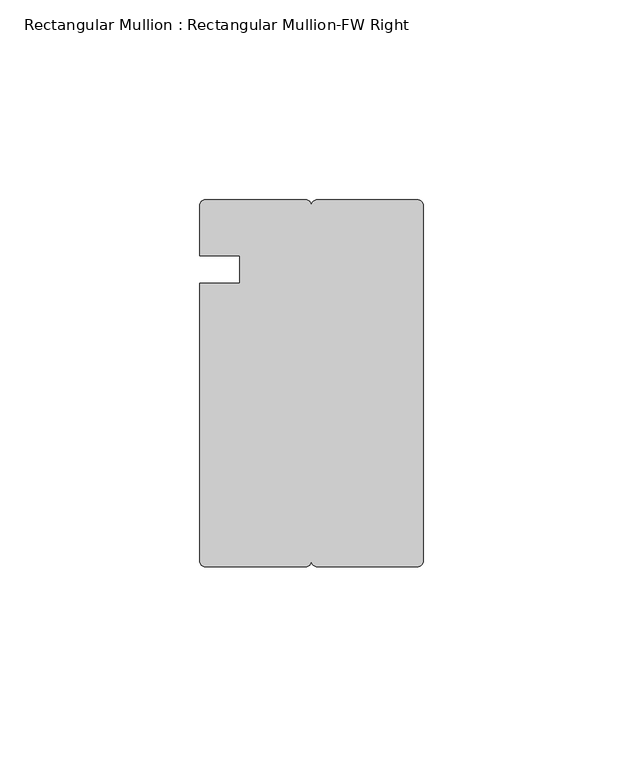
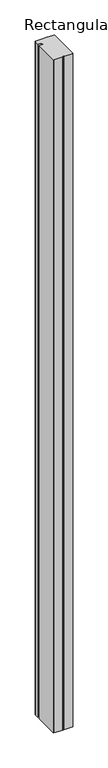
"""IFC4 building model written with IfcOpenShell, lengths in millimetres: member geometry, Rectangular Mullion : Rectangular Mullion-FW Right."""

import ifcopenshell
import ifcopenshell.guid

model = None  # the IFC model being written
_history = None  # IfcOwnerHistory: only IFC2X3 demands one
_inside = {}  # id of a spatial element -> (the spatial element, [elements in it])
_under = {}  # id of a project, library or spatial element -> (it, [spatial elements below it])
_declared = {}  # id of a project -> (the project, [libraries it declares])
_typed = {}  # id of a type object -> (the type object, [elements of that type])
_made_of = {}  # id of a material, layer set ... -> (it, [elements and type objects made of it])


def new_model(schema):
    """Start an empty IFC model of exactly this schema.

    Asked for "IFC4X3", IfcOpenShell would pick the latest addendum, in which some entities
    have other attributes; the version numbers below select the first issue.
    IFC2X3 requires an IfcOwnerHistory on every rooted entity: one is made here for all.
    """
    global model, _history
    if schema == "IFC4X3":
        model = ifcopenshell.file(schema_version=(4, 3, 0, 0))
    else:
        model = ifcopenshell.file(schema=schema)
    _inside.clear()
    _under.clear()
    _declared.clear()
    _typed.clear()
    _made_of.clear()
    _history = None
    if model.schema == "IFC2X3":
        org = make("IfcOrganization", Name="unknown")
        user = make(
            "IfcPersonAndOrganization",
            ThePerson=make("IfcPerson", FamilyName="unknown"),
            TheOrganization=org,
        )
        app = make(
            "IfcApplication",
            ApplicationDeveloper=org,
            Version="unknown",
            ApplicationFullName="unknown",
            ApplicationIdentifier="unknown",
        )
        _history = make(
            "IfcOwnerHistory",
            OwningUser=user,
            OwningApplication=app,
            ChangeAction="ADDED",
            CreationDate=0,
        )
    return model


def make(cls, **values):
    """One entity of the class cls with the attributes given. An attribute that is None is left unset."""
    return model.create_entity(
        cls, **{name: value for name, value in values.items() if value is not None}
    )


def rooted(cls, **values):
    """An entity with a GlobalId (a new one), such as an element, a storey or a relation."""
    return make(cls, GlobalId=ifcopenshell.guid.new(), OwnerHistory=_history, **values)


def si_unit(unit_type, name, prefix=None):
    """IfcSIUnit, for example si_unit("LENGTHUNIT", "METRE", prefix="MILLI")."""
    return make("IfcSIUnit", UnitType=unit_type, Prefix=prefix, Name=name)


def assignment(units):
    """IfcUnitAssignment: the units of a project."""
    return None if units is None else make("IfcUnitAssignment", Units=units)


def point(xyz):
    """IfcCartesianPoint."""
    return None if xyz is None else make("IfcCartesianPoint", Coordinates=xyz)


def direction(xyz):
    """IfcDirection."""
    return None if xyz is None else make("IfcDirection", DirectionRatios=xyz)


def frame(location, z_axis=None, x_axis=None):
    """IfcAxis2Placement3D, a coordinate frame: its origin and axes. An axis left out is left unset."""
    return make(
        "IfcAxis2Placement3D",
        Location=point(location),
        Axis=direction(z_axis),
        RefDirection=direction(x_axis),
    )


def origin():
    """The frame at (0, 0, 0) with its axes left unset."""
    return frame((0.0, 0.0, 0.0))


def place(relative_to, where):
    """IfcLocalPlacement: puts the frame where relative to a parent placement (None: the world)."""
    return make(
        "IfcLocalPlacement", PlacementRelTo=relative_to, RelativePlacement=where
    )


def context(
    kind, dimensions, precision=None, world=None, true_north=None, identifier=None
):
    """IfcGeometricRepresentationContext, for example the 3D "Model" context."""
    return make(
        "IfcGeometricRepresentationContext",
        ContextIdentifier=identifier,
        ContextType=kind,
        CoordinateSpaceDimension=dimensions,
        Precision=precision,
        WorldCoordinateSystem=world,
        TrueNorth=true_north,
    )


def project(units=None, contexts=None):
    """IfcProject with its units and contexts."""
    return rooted(
        "IfcProject",
        Name="project",
        RepresentationContexts=contexts,
        UnitsInContext=assignment(units),
    )


def spatial(cls, under=None, at=None, **own):
    """A site, building, storey or space (cls), placed at a placement, below another one or the project."""
    s = rooted(cls, ObjectPlacement=at, **own)
    if under is not None:
        _under.setdefault(under.id(), (under, []))[1].append(s)
    return s


def circle_curve(where, radius):
    """IfcCircle in the frame where."""
    return make("IfcCircle", Position=where, Radius=radius)


def shape(context_of_items, identifier, shape_type, items):
    """IfcShapeRepresentation: the items that make up one representation, for example the "Body"."""
    return make(
        "IfcShapeRepresentation",
        ContextOfItems=context_of_items,
        RepresentationIdentifier=identifier,
        RepresentationType=shape_type,
        Items=items,
    )


def source(mapping_origin, context_of_items, identifier, shape_type, items):
    """IfcRepresentationMap: a shape defined once, which mapped items show again and again."""
    return make(
        "IfcRepresentationMap",
        MappingOrigin=mapping_origin,
        MappedRepresentation=shape(context_of_items, identifier, shape_type, items),
    )


def transform(
    local_origin,
    x_axis=None,
    y_axis=None,
    z_axis=None,
    scale=None,
    scale2=None,
    scale3=None,
    uniform=True,
):
    """IfcCartesianTransformationOperator3D, or its non-uniform kind. x_axis, y_axis, z_axis: its Axis1, 2, 3."""
    if uniform:
        return make(
            "IfcCartesianTransformationOperator3D",
            Axis1=direction(x_axis),
            Axis2=direction(y_axis),
            LocalOrigin=point(local_origin),
            Scale=scale,
            Axis3=direction(z_axis),
        )
    return make(
        "IfcCartesianTransformationOperator3DnonUniform",
        Axis1=direction(x_axis),
        Axis2=direction(y_axis),
        LocalOrigin=point(local_origin),
        Scale=scale,
        Axis3=direction(z_axis),
        Scale2=scale2,
        Scale3=scale3,
    )


def mapped(mapping_source, mapping_target):
    """IfcMappedItem: shows the shape of a source again, moved by a transform."""
    return make(
        "IfcMappedItem", MappingSource=mapping_source, MappingTarget=mapping_target
    )


def made_of(thing, what):
    """Note that an element or type object is made of a material, layer set ...; save() writes the relation."""
    if what is not None:
        _made_of.setdefault(what.id(), (what, []))[1].append(thing)
    return thing


def element(
    cls,
    number,
    at=None,
    inside=None,
    cuts=None,
    type_object=None,
    material=None,
    context=None,
    identifier="Body",
    shape_type=None,
    held_by="IfcProductDefinitionShape",
    body=None,
    shapes=None,
    **own,
):
    """One element of the class cls, such as IfcWall. Its Tag is "e" and its number.

    at: its placement. inside: the storey or other place that contains it. cuts: it is an
    opening in that element (IfcRelVoidsElement). A single representation is given by context,
    identifier, shape_type and body (its items); several are given by shapes. held_by: the class
    of the entity that holds the representations. save() writes the other relations.
    """
    e = rooted(cls, Tag="e%d" % number, ObjectPlacement=at, **own)
    if body is not None:
        shapes = [shape(context, identifier, shape_type, body)]
    if shapes is not None:
        e.Representation = make(held_by, Representations=shapes)
    if inside is not None:
        _inside.setdefault(inside.id(), (inside, []))[1].append(e)
    if cuts is not None:
        rooted(
            "IfcRelVoidsElement", RelatingBuildingElement=cuts, RelatedOpeningElement=e
        )
    if type_object is not None:
        _typed.setdefault(type_object.id(), (type_object, []))[1].append(e)
    return made_of(e, material)


def aggregate(whole, parts):
    """IfcRelAggregates: a whole, such as a stair, and the parts it consists of."""
    return rooted("IfcRelAggregates", RelatingObject=whole, RelatedObjects=parts)


def save(model, path):
    """Write the relations noted so far, then the file.

    IfcRelAggregates (storeys below a building ...), IfcRelContainedInSpatialStructure (elements
    in a storey), IfcRelDefinesByType, IfcRelAssociatesMaterial and IfcRelDeclares: one each for
    every whole, place, type object, material and project.
    """
    for whole, parts in _under.values():
        aggregate(whole, parts)
    for where, things in _inside.values():
        rooted(
            "IfcRelContainedInSpatialStructure",
            RelatedElements=things,
            RelatingStructure=where,
        )
    for kind, things in _typed.values():
        rooted("IfcRelDefinesByType", RelatedObjects=things, RelatingType=kind)
    for what, things in _made_of.values():
        rooted("IfcRelAssociatesMaterial", RelatedObjects=things, RelatingMaterial=what)
    for by, libraries in _declared.values():
        rooted("IfcRelDeclares", RelatingContext=by, RelatedDefinitions=libraries)
    model.write(path)


def plane_surface(at):
    """IfcPlane: the flat surface through the origin of the frame at, square to its z axis."""
    return make("IfcPlane", Position=at)


def cylinder_surface(at, radius):
    """IfcCylindricalSurface: all points at the distance radius from the z axis of the frame at."""
    return make("IfcCylindricalSurface", Position=at, Radius=radius)


def advanced_brep(points, edges, surfaces, faces):
    """IfcAdvancedBrep: a solid bounded by faces that lie on surfaces and meet in shared edges.

    An edge is (start, end): straight between two places in points (the first is 0);
    or (start, end, curve); or (start, end, curve, False) where it runs against its curve.
    A face is (place in surfaces, loops), or (place, loops, False) where it looks against
    its surface's normal. A loop lists edges by number (the first is 1), with a minus sign
    where the edge is run from its end to its start. The first loop is the outer one.
    """
    corners = [point(p) for p in points]
    vertices = [make("IfcVertexPoint", VertexGeometry=c) for c in corners]
    made = []
    for start, end, *more in edges:
        made.append(
            make(
                "IfcEdgeCurve",
                EdgeStart=vertices[start],
                EdgeEnd=vertices[end],
                EdgeGeometry=more[0] if more else make("IfcPolyline", Points=[corners[start], corners[end]]),
                SameSense=more[1] if len(more) > 1 else True,
            )
        )
    hull = []
    for where, loops, *sense in faces:
        bounds = []
        for j, loop in enumerate(loops):
            ring = [make("IfcOrientedEdge", EdgeElement=made[abs(k) - 1], Orientation=k > 0) for k in loop]
            bounds.append(
                make(
                    "IfcFaceOuterBound" if j == 0 else "IfcFaceBound",
                    Bound=make("IfcEdgeLoop", EdgeList=ring),
                    Orientation=True,
                )
            )
        hull.append(make("IfcAdvancedFace", Bounds=bounds, FaceSurface=surfaces[where], SameSense=sense[0] if sense else True))
    return make("IfcAdvancedBrep", Outer=make("IfcClosedShell", CfsFaces=hull))


def rectangular_mullion_rectangular_mullion_fw_right_3b88cd19(model_context):
    return source(origin(), model_context, "Body", "AdvancedBrep", [
        advanced_brep(
        [(-1.4798969, 0.0, 0.0), (-26.5201031, 0.0, 0.0), (-28.0, -1.4798969, 0.0), (-29.4798969, 0.0, 0.0), (-54.5201031, 0.0, 0.0), (-56.0, -1.4798969, 0.0), (-56.0, -14.0, 0.0), (-46.0, -14.0, 0.0), (-46.0, -21.0, 0.0), (-56.0, -21.0, 0.0), (-56.0, -90.5201031, 0.0), (-54.5201031, -92.0, 0.0), (-29.4798969, -92.0, 0.0), (-28.0, -90.5201031, 0.0), (-26.5201031, -92.0, 0.0), (-1.4798969, -92.0, 0.0), (0.0, -90.5201031, 0.0), (0.0, -1.4798969, 0.0), (-1.4798969, 0.0, -2038.0), (0.0, -1.4798969, -2038.0), (0.0, -90.5201031, -2038.0), (-1.4798969, -92.0, -2038.0), (-26.5201031, -92.0, -2038.0), (-28.0, -90.5201031, -2038.0), (-29.4798969, -92.0, -2038.0), (-54.5201031, -92.0, -2038.0), (-56.0, -90.5201031, -2038.0), (-56.0, -21.0, -2038.0), (-46.0, -21.0, -2038.0), (-46.0, -14.0, -2038.0), (-56.0, -14.0, -2038.0), (-56.0, -1.4798969, -2038.0), (-54.5201031, 0.0, -2038.0), (-29.4798969, 0.0, -2038.0), (-28.0, -1.4798969, -2038.0), (-26.5201031, 0.0, -2038.0)],
        [
            (0, 1),
            (1, 2, circle_curve(frame((-26.5201031, -1.4798969, 0.0), z_axis=(0.0, 0.0, 1.0), x_axis=(1.0, 0.0, 0.0)), 1.4798969)),
            (2, 3, circle_curve(frame((-29.4798969, -1.4798969, 0.0), z_axis=(0.0, 0.0, 1.0), x_axis=(1.0, 0.0, 0.0)), 1.4798969)),
            (3, 4),
            (4, 5, circle_curve(frame((-54.5201031, -1.4798969, 0.0), z_axis=(0.0, 0.0, 1.0), x_axis=(1.0, 0.0, 0.0)), 1.4798969)),
            (5, 6),
            (6, 7),
            (7, 8),
            (8, 9),
            (9, 10),
            (10, 11, circle_curve(frame((-54.5201031, -90.5201031, 0.0), z_axis=(0.0, 0.0, 1.0), x_axis=(1.0, 0.0, 0.0)), 1.4798969)),
            (11, 12),
            (12, 13, circle_curve(frame((-29.4798969, -90.5201031, 0.0), z_axis=(0.0, 0.0, 1.0), x_axis=(1.0, 0.0, 0.0)), 1.4798969)),
            (13, 14, circle_curve(frame((-26.5201031, -90.5201031, 0.0), z_axis=(0.0, 0.0, 1.0), x_axis=(1.0, 0.0, 0.0)), 1.4798969)),
            (14, 15),
            (15, 16, circle_curve(frame((-1.4798969, -90.5201031, 0.0), z_axis=(0.0, 0.0, 1.0), x_axis=(1.0, 0.0, 0.0)), 1.4798969)),
            (16, 17),
            (17, 0, circle_curve(frame((-1.4798969, -1.4798969, 0.0), z_axis=(0.0, 0.0, 1.0), x_axis=(1.0, 0.0, 0.0)), 1.4798969)),
            (18, 19, circle_curve(frame((-1.4798969, -1.4798969, -2038.0), z_axis=(0.0, 0.0, -1.0), x_axis=(1.0, 0.0, 0.0)), 1.4798969)),
            (19, 20),
            (20, 21, circle_curve(frame((-1.4798969, -90.5201031, -2038.0), z_axis=(0.0, 0.0, -1.0), x_axis=(1.0, 0.0, 0.0)), 1.4798969)),
            (21, 22),
            (22, 23, circle_curve(frame((-26.5201031, -90.5201031, -2038.0), z_axis=(0.0, 0.0, -1.0), x_axis=(1.0, 0.0, 0.0)), 1.4798969)),
            (23, 24, circle_curve(frame((-29.4798969, -90.5201031, -2038.0), z_axis=(0.0, 0.0, -1.0), x_axis=(1.0, 0.0, 0.0)), 1.4798969)),
            (24, 25),
            (25, 26, circle_curve(frame((-54.5201031, -90.5201031, -2038.0), z_axis=(0.0, 0.0, -1.0), x_axis=(1.0, 0.0, 0.0)), 1.4798969)),
            (26, 27),
            (27, 28),
            (28, 29),
            (29, 30),
            (30, 31),
            (31, 32, circle_curve(frame((-54.5201031, -1.4798969, -2038.0), z_axis=(0.0, 0.0, -1.0), x_axis=(1.0, 0.0, 0.0)), 1.4798969)),
            (32, 33),
            (33, 34, circle_curve(frame((-29.4798969, -1.4798969, -2038.0), z_axis=(0.0, 0.0, -1.0), x_axis=(1.0, 0.0, 0.0)), 1.4798969)),
            (34, 35, circle_curve(frame((-26.5201031, -1.4798969, -2038.0), z_axis=(0.0, 0.0, -1.0), x_axis=(1.0, 0.0, 0.0)), 1.4798969)),
            (35, 18),
            (0, 18),
            (35, 1),
            (34, 2),
            (33, 3),
            (32, 4),
            (31, 5),
            (30, 6),
            (29, 7),
            (28, 8),
            (27, 9),
            (26, 10),
            (25, 11),
            (24, 12),
            (23, 13),
            (22, 14),
            (21, 15),
            (20, 16),
            (19, 17),
        ],
        [
            plane_surface(frame((0.0, -107.1077683, 0.0), z_axis=(0.0, 0.0, 1.0), x_axis=(-1.0, 0.0, 0.0))),
            plane_surface(frame((0.0, -107.1077683, -2038.0), z_axis=(0.0, 0.0, -1.0), x_axis=(-1.0, 0.0, 0.0))),
            plane_surface(frame((-1.4798969, 0.0, 0.0), z_axis=(0.0, 1.0, 0.0), x_axis=(0.0, 0.0, -1.0))),
            cylinder_surface(frame((-26.5201031, -1.4798969, 0.0), z_axis=(0.0, 0.0, 1.0), x_axis=(1.0, 0.0, 0.0)), 1.4798969),
            cylinder_surface(frame((-29.4798969, -1.4798969, 0.0), z_axis=(0.0, 0.0, 1.0), x_axis=(1.0, 0.0, 0.0)), 1.4798969),
            plane_surface(frame((-29.4798969, 0.0, 0.0), z_axis=(0.0, 1.0, 0.0), x_axis=(0.0, 0.0, -1.0))),
            cylinder_surface(frame((-54.5201031, -1.4798969, 0.0), z_axis=(0.0, 0.0, 1.0), x_axis=(1.0, 0.0, 0.0)), 1.4798969),
            plane_surface(frame((-56.0, -1.4798969, 0.0), z_axis=(-1.0, 0.0, 0.0), x_axis=(0.0, 0.0, -1.0))),
            plane_surface(frame((-56.0, -14.0, 0.0), z_axis=(0.0, -1.0, 0.0), x_axis=(0.0, 0.0, -1.0))),
            plane_surface(frame((-46.0, -14.0, 0.0), z_axis=(-1.0, 0.0, 0.0), x_axis=(0.0, 0.0, -1.0))),
            plane_surface(frame((-46.0, -21.0, 0.0), z_axis=(0.0, 1.0, 0.0), x_axis=(0.0, 0.0, -1.0))),
            plane_surface(frame((-56.0, -21.0, 0.0), z_axis=(-1.0, 0.0, 0.0), x_axis=(0.0, 0.0, -1.0))),
            cylinder_surface(frame((-54.5201031, -90.5201031, 0.0), z_axis=(0.0, 0.0, 1.0), x_axis=(1.0, 0.0, 0.0)), 1.4798969),
            plane_surface(frame((-54.5201031, -92.0, 0.0), z_axis=(0.0, -1.0, 0.0), x_axis=(0.0, 0.0, -1.0))),
            cylinder_surface(frame((-29.4798969, -90.5201031, 0.0), z_axis=(0.0, 0.0, 1.0), x_axis=(1.0, 0.0, 0.0)), 1.4798969),
            cylinder_surface(frame((-26.5201031, -90.5201031, 0.0), z_axis=(0.0, 0.0, 1.0), x_axis=(1.0, 0.0, 0.0)), 1.4798969),
            plane_surface(frame((-26.5201031, -92.0, 0.0), z_axis=(0.0, -1.0, 0.0), x_axis=(0.0, 0.0, -1.0))),
            cylinder_surface(frame((-1.4798969, -90.5201031, 0.0), z_axis=(0.0, 0.0, 1.0), x_axis=(1.0, 0.0, 0.0)), 1.4798969),
            plane_surface(frame((0.0, -90.5201031, 0.0), z_axis=(1.0, 0.0, 0.0), x_axis=(0.0, 0.0, -1.0))),
            cylinder_surface(frame((-1.4798969, -1.4798969, 0.0), z_axis=(0.0, 0.0, 1.0), x_axis=(1.0, 0.0, 0.0)), 1.4798969),
        ],
        [
            (0, [[1, 2, 3, 4, 5, 6, 7, 8, 9, 10, 11, 12, 13, 14, 15, 16, 17, 18]]),
            (1, [[19, 20, 21, 22, 23, 24, 25, 26, 27, 28, 29, 30, 31, 32, 33, 34, 35, 36]]),
            (2, [[-1, 37, -36, 38]]),
            (3, [[-2, -38, -35, 39]]),
            (4, [[-3, -39, -34, 40]]),
            (5, [[-4, -40, -33, 41]]),
            (6, [[-5, -41, -32, 42]]),
            (7, [[-6, -42, -31, 43]]),
            (8, [[-7, -43, -30, 44]]),
            (9, [[-8, -44, -29, 45]]),
            (10, [[-9, -45, -28, 46]]),
            (11, [[-10, -46, -27, 47]]),
            (12, [[-11, -47, -26, 48]]),
            (13, [[-12, -48, -25, 49]]),
            (14, [[-13, -49, -24, 50]]),
            (15, [[-14, -50, -23, 51]]),
            (16, [[-15, -51, -22, 52]]),
            (17, [[-16, -52, -21, 53]]),
            (18, [[-17, -53, -20, 54]]),
            (19, [[-18, -54, -19, -37]]),
        ],
    ),
    ])


if __name__ == "__main__":
    model = new_model("IFC4")
    model_context = context("Model", 3, world=origin())
    ifc_project = project(units=[si_unit("LENGTHUNIT", "METRE", prefix="MILLI")], contexts=[model_context])
    site = spatial("IfcSite", under=ifc_project)
    building = spatial("IfcBuilding", under=site)
    placement = place(None, origin())
    rectangular_mullion_rectangular_mullion_fw_right_shape = rectangular_mullion_rectangular_mullion_fw_right_3b88cd19(model_context)
    element("IfcMember", 1, ObjectType="Rectangular Mullion : Rectangular Mullion-FW Right", at=placement, inside=building, context=model_context, shape_type="MappedRepresentation", body=[
        mapped(rectangular_mullion_rectangular_mullion_fw_right_shape, transform((0.0, 0.0, 0.0), x_axis=(1.0, 0.0, 0.0), y_axis=(0.0, 1.0, 0.0), z_axis=(0.0, 0.0, 1.0))),
    ])
    save(model, "model.ifc")
